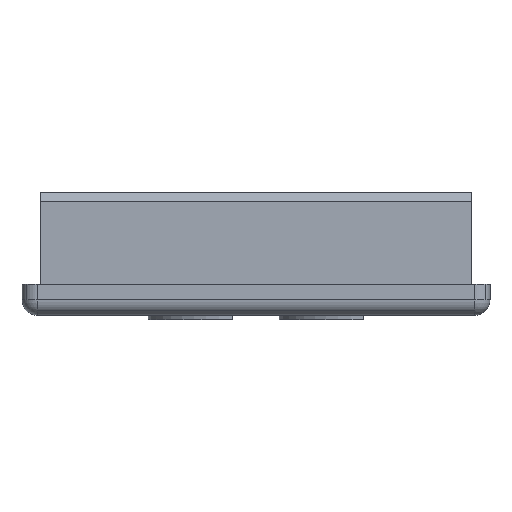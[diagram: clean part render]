
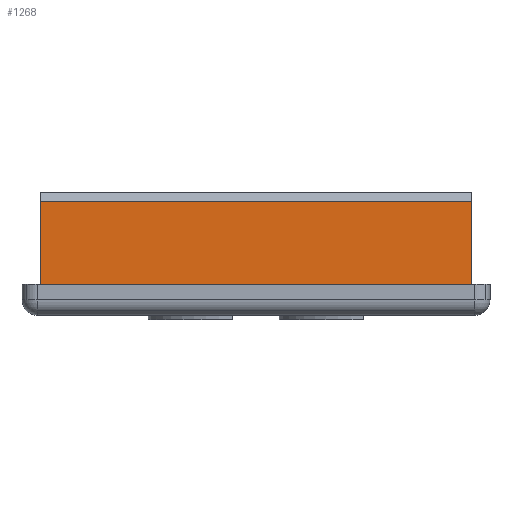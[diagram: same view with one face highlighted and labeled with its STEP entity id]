
A CAD part, front view. The second image highlights one B-rep face of the part: STEP entity #1268.
In plain terms, the highlighted planar face has unit normal (0, -1, 0).
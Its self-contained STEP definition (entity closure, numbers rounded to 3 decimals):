
#77 = EDGE_CURVE ( 'NONE', #1239, #829, #1256, .T. ) ;
#85 = CARTESIAN_POINT ( 'NONE',  ( 0.6, 3.85, 0.15 ) ) ;
#102 = DIRECTION ( 'NONE',  ( 0., 0., 1. ) ) ;
#127 = VECTOR ( 'NONE', #703, 1000. ) ;
#215 = DIRECTION ( 'NONE',  ( 0., -1., 0. ) ) ;
#273 = CARTESIAN_POINT ( 'NONE',  ( 14.6, 3.85, 3.85 ) ) ;
#408 = DIRECTION ( 'NONE',  ( -1., 0., 0. ) ) ;
#416 = ORIENTED_EDGE ( 'NONE', *, *, #432, .F. ) ;
#432 = EDGE_CURVE ( 'NONE', #1263, #1239, #1103, .T. ) ;
#446 = VECTOR ( 'NONE', #408, 1000. ) ;
#532 = CARTESIAN_POINT ( 'NONE',  ( 0.6, 3.85, 1.15 ) ) ;
#572 = CARTESIAN_POINT ( 'NONE',  ( 14.6, 3.85, 1.15 ) ) ;
#592 = CARTESIAN_POINT ( 'NONE',  ( 14.6, 3.85, 0.15 ) ) ;
#595 = EDGE_CURVE ( 'NONE', #1263, #777, #1152, .T. ) ;
#703 = DIRECTION ( 'NONE',  ( -1., 0., 0. ) ) ;
#734 = CARTESIAN_POINT ( 'NONE',  ( 0.6, 3.85, 3.85 ) ) ;
#770 = EDGE_LOOP ( 'NONE', ( #1251, #416, #1366, #1249 ) ) ;
#777 = VERTEX_POINT ( 'NONE', #886 ) ;
#827 = FACE_OUTER_BOUND ( 'NONE', #770, .T. ) ;
#829 = VERTEX_POINT ( 'NONE', #734 ) ;
#836 = PLANE ( 'NONE',  #1549 ) ;
#886 = CARTESIAN_POINT ( 'NONE',  ( 14.6, 3.85, 3.85 ) ) ;
#939 = EDGE_CURVE ( 'NONE', #777, #829, #1167, .T. ) ;
#1103 = LINE ( 'NONE', #572, #127 ) ;
#1152 = LINE ( 'NONE', #1661, #1231 ) ;
#1167 = LINE ( 'NONE', #273, #446 ) ;
#1174 = VECTOR ( 'NONE', #102, 1000. ) ;
#1231 = VECTOR ( 'NONE', #1542, 1000. ) ;
#1233 = DIRECTION ( 'NONE',  ( -1., 0., 0. ) ) ;
#1239 = VERTEX_POINT ( 'NONE', #532 ) ;
#1249 = ORIENTED_EDGE ( 'NONE', *, *, #939, .T. ) ;
#1251 = ORIENTED_EDGE ( 'NONE', *, *, #77, .F. ) ;
#1256 = LINE ( 'NONE', #85, #1174 ) ;
#1263 = VERTEX_POINT ( 'NONE', #1594 ) ;
#1268 = ADVANCED_FACE ( 'NONE', ( #827 ), #836, .T. ) ;
#1366 = ORIENTED_EDGE ( 'NONE', *, *, #595, .T. ) ;
#1542 = DIRECTION ( 'NONE',  ( 0., 0., 1. ) ) ;
#1549 = AXIS2_PLACEMENT_3D ( 'NONE', #592, #215, #1233 ) ;
#1594 = CARTESIAN_POINT ( 'NONE',  ( 14.6, 3.85, 1.15 ) ) ;
#1661 = CARTESIAN_POINT ( 'NONE',  ( 14.6, 3.85, 0.15 ) ) ;
